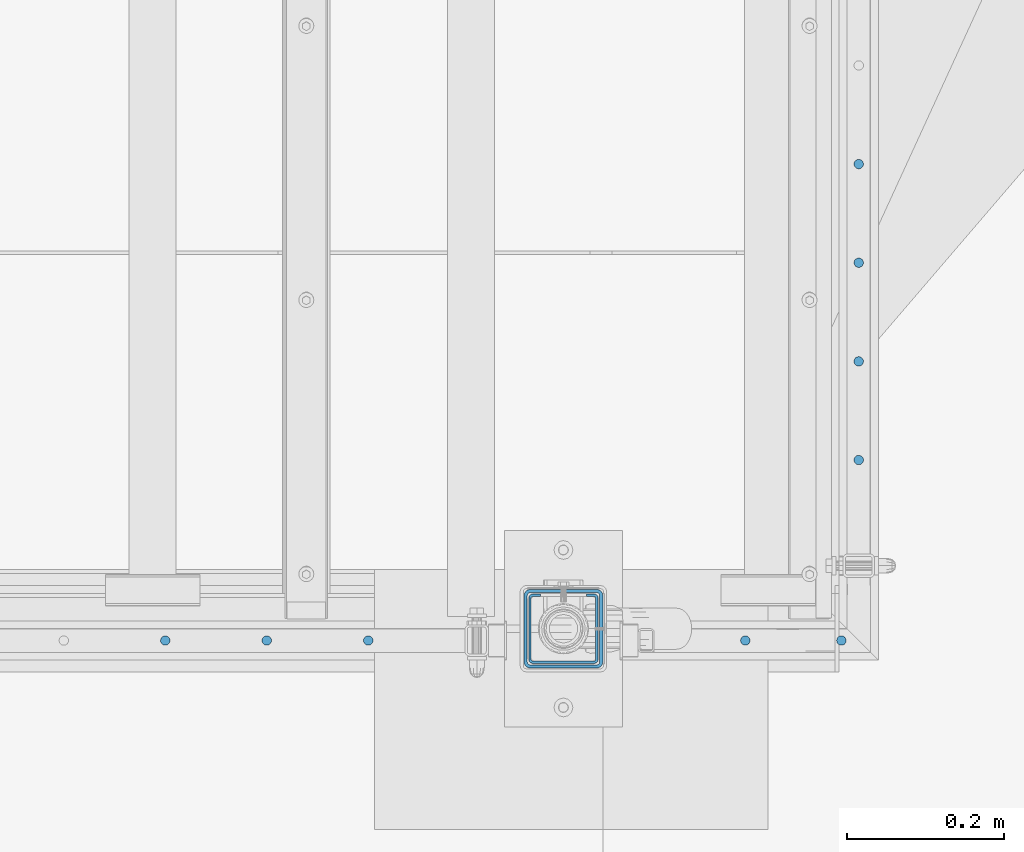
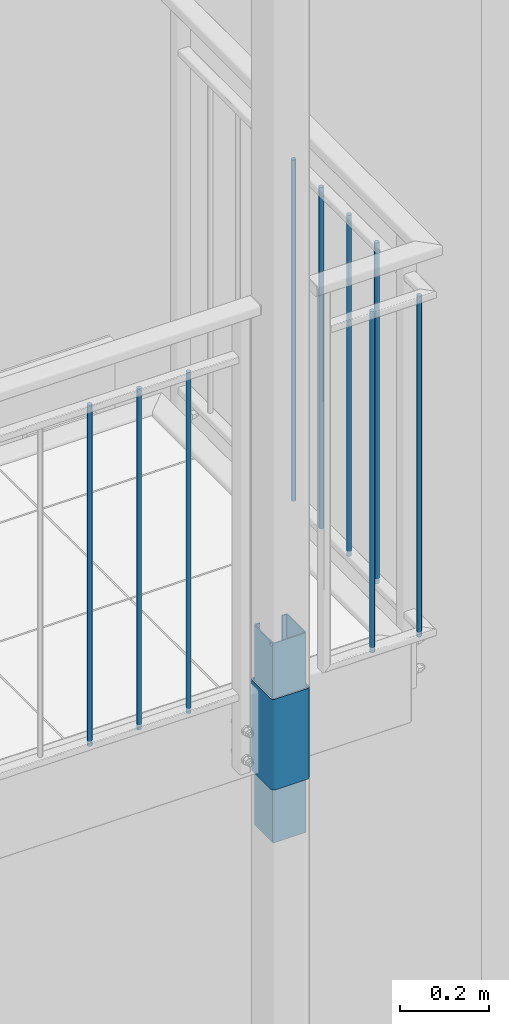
# One storey, part 30 of 162: 11 columns, 3 openings.
"""IFC2X3 building model written with IfcOpenShell, lengths in millimetres."""

from ifc_helpers import new_model, entity, si_unit, converted_unit, point, frame, frame_2d, origin, origin_with_axes, origin_2d, place, context, project, spatial, circle_curve, line_curve, trimmed, segment, composite_curve, hollow_rectangle, circle, outline, extrude, material, element, save


model = new_model("IFC2X3")

# Units and contexts
model_context = context("Model", 3, precision=1e-09, world=origin_with_axes())
ifc_project = project(units=[si_unit("LENGTHUNIT", "METRE", prefix="MILLI"), si_unit("AREAUNIT", "SQUARE_METRE"), si_unit("VOLUMEUNIT", "CUBIC_METRE"), converted_unit("PLANEANGLEUNIT", "DEGREE", entity("IfcPlaneAngleMeasure", 0.01745329), si_unit("PLANEANGLEUNIT", "RADIAN"), dimensions=[0, 0, 0, 0, 0, 0, 0])], contexts=[model_context])

# Site, building, storey
site_placement = place(None, origin_with_axes())
site = spatial("IfcSite", under=ifc_project, at=site_placement, Name="Hermannstra?e 1a, 60318 Frankfurt", CompositionType="ELEMENT")
building_placement = place(site_placement, origin_with_axes())
building = spatial("IfcBuilding", under=site, at=building_placement, Name="Struktur 1", CompositionType="ELEMENT")
storey_placement = place(building_placement, origin_with_axes())
storey = spatial("IfcBuildingStorey", under=building, at=storey_placement, Name="Default Storey", CompositionType="ELEMENT", Elevation=0.0)

# Columns
ifc_material = material(Name="S235JR")
for number, where, z_axis, x_axis in (
    (1, (5848.30936482, 2120.609373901, 15261.999), (0.0, 0.0, -1.0), (0.0, -1.0, 0.0)),
    (2, (5848.30936482, 1995.359373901, 15261.999), (0.0, 0.0, -1.0), (0.0, -1.0, 0.0)),
    (3, (5848.30936482, 1870.109373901, 15261.999), (0.0, 0.0, -1.0), (0.0, -1.0, 0.0)),
    (4, (5848.30936482, 1744.859373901, 15261.999), (0.0, 0.0, -1.0), (0.0, -1.0, 0.0)),
    (5, (4967.737936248, 1515.609373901, 15261.999), (0.0, 0.0, -1.0), (1.0, 0.0, 0.0)),
    (6, (5096.595079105, 1515.609373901, 15261.999), (0.0, 0.0, -1.0), (1.0, 0.0, 0.0)),
    (7, (5225.452221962, 1515.609373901, 15261.999), (0.0, 0.0, -1.0), (1.0, 0.0, 0.0)),
):
    element("IfcColumn", number, at=place(None, frame(where, z_axis=z_axis, x_axis=x_axis)), inside=storey, material=ifc_material, Name="-", ObjectType="-", context=model_context, shape_type="SweptSolid", body=[
        extrude(circle(Radius=6.0, at=origin_2d()), origin(), (0.0, 0.0, -1.0), 940.0),
    ])
for number, where, z_axis, x_axis in (
    (8, (5704.30936482, 1515.609373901, 15261.999), (0.0, 0.0, 1.0), (-1.0, 0.0, 0.0)),
    (9, (5826.30936482, 1515.609373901, 15261.999), (0.0, 0.0, 1.0), (-1.0, 0.0, 0.0)),
):
    element("IfcColumn", number, at=place(None, frame(where, z_axis=z_axis, x_axis=x_axis)), inside=storey, material=ifc_material, Name="-", ObjectType="-", context=model_context, shape_type="SweptSolid", body=[
        extrude(circle(Radius=6.0, at=origin_2d()), origin(), (0.0, 0.0, 1.0), 940.0),
    ])

# Column, opening
column_1_placement = place(None, frame((5473.30936482, 1530.609373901, 14996.999), z_axis=(0.0, 0.0, 1.0), x_axis=(0.0, -1.0, 0.0)))
column_1 = element("IfcColumn", 10, at=column_1_placement, inside=storey, material=ifc_material, Name="-", ObjectType="-", context=model_context, shape_type="SweptSolid", body=[
    extrude(hollow_rectangle(XDim=100.0, YDim=100.0, WallThickness=4.0, InnerFilletRadius=4.0, OuterFilletRadius=8.0, at=origin_2d()), origin(), (0.0, 0.0, 1.0), 250.0),
])
opening_1_placement = place(column_1_placement, frame((20.0, -26.002684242, 15.999), z_axis=(1.0, 0.0, 0.0), x_axis=(0.0, 0.707106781, -0.707106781)))
element("IfcOpeningElement", 11, at=opening_1_placement, cuts=column_1, ObjectType="Opening", context=model_context, shape_type="SweptSolid", body=[
    extrude(outline(composite_curve([segment(trimmed(circle_curve(frame_2d((4.242640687, 4.242640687), x_axis=(1.0, 0.0)), 6.0), [point((0.0, 0.0))], [point((8.485281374, 0.0))], True, "CARTESIAN"), True, "CONTINUOUS"), segment(trimmed(line_curve((8.485281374, 0.0), (0.707106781, 0.707106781), 40.002), [point((8.485281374, 0.0))], [point((36.770966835, 28.285685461))], True, "CARTESIAN"), True, "CONTINUOUS"), segment(trimmed(circle_curve(frame_2d((32.528326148, 32.528326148), x_axis=(1.0, 0.0)), 6.0), [point((36.770966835, 28.285685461))], [point((36.770966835, 36.770966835))], True, "CARTESIAN"), True, "CONTINUOUS"), segment(trimmed(line_curve((36.770966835, 36.770966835), (-0.707106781, 0.707106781), 38.002), [point((36.770966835, 36.770966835))], [point((9.899494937, 63.642438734))], True, "CARTESIAN"), True, "CONTINUOUS"), segment(trimmed(circle_curve(frame_2d((5.656854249, 59.399798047), x_axis=(1.0, 0.0)), 6.0), [point((9.899494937, 63.642438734))], [point((1.414213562, 63.642438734))], True, "CARTESIAN"), True, "CONTINUOUS"), segment(trimmed(line_curve((1.414213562, 63.642438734), (-0.707106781, -0.707106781), 40.002), [point((1.414213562, 63.642438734))], [point((-26.871471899, 35.356753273))], True, "CARTESIAN"), True, "CONTINUOUS"), segment(trimmed(circle_curve(frame_2d((-22.628831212, 31.114112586), x_axis=(1.0, 0.0)), 6.0), [point((-26.871471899, 35.356753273))], [point((-26.871471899, 26.871471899))], True, "CARTESIAN"), True, "CONTINUOUS"), segment(trimmed(line_curve((-26.871471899, 26.871471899), (0.707106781, -0.707106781), 38.002), [point((-26.871471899, 26.871471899))], [point((0.0, 0.0))], True, "CARTESIAN"), True, "CONTINUOUS")], self_intersect=False)), origin(), (0.0, 0.0, -1.0), 170.1),
])

# Column, openings
column_2_placement = place(None, frame((5473.30936482, 1530.609373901, 15396.999), z_axis=(0.0, 0.0, 1.0), x_axis=(0.0, 1.0, 0.0)))
column_2 = element("IfcColumn", 12, at=column_2_placement, inside=storey, material=ifc_material, Name="-", ObjectType="-", context=model_context, shape_type="SweptSolid", body=[
    extrude(outline(composite_curve([segment(trimmed(line_curve((44.0, 29.0), (0.0, 1.0), 10.0), [point((44.0, 29.0))], [point((44.0, 39.0))], True, "CARTESIAN"), True, "CONTINUOUS"), segment(trimmed(circle_curve(frame_2d((39.0, 39.0), x_axis=(1.0, 0.0)), 5.0), [point((44.0, 39.0))], [point((39.0, 44.0))], True, "CARTESIAN"), True, "CONTINUOUS"), segment(trimmed(line_curve((39.0, 44.0), (-1.0, 0.0), 78.0), [point((39.0, 44.0))], [point((-39.0, 44.0))], True, "CARTESIAN"), True, "CONTINUOUS"), segment(trimmed(circle_curve(frame_2d((-39.0, 39.0), x_axis=(1.0, 0.0)), 5.0), [point((-39.0, 44.0))], [point((-44.0, 39.0))], True, "CARTESIAN"), True, "CONTINUOUS"), segment(trimmed(line_curve((-44.0, 39.0), (0.0, -1.0), 78.0), [point((-44.0, 39.0))], [point((-44.0, -39.0))], True, "CARTESIAN"), True, "CONTINUOUS"), segment(trimmed(circle_curve(frame_2d((-39.0, -39.0), x_axis=(1.0, 0.0)), 5.0), [point((-44.0, -39.0))], [point((-39.0, -44.0))], True, "CARTESIAN"), True, "CONTINUOUS"), segment(trimmed(line_curve((-39.0, -44.0), (1.0, 0.0), 78.0), [point((-39.0, -44.0))], [point((39.0, -44.0))], True, "CARTESIAN"), True, "CONTINUOUS"), segment(trimmed(circle_curve(frame_2d((39.0, -39.0), x_axis=(1.0, 0.0)), 5.0), [point((39.0, -44.0))], [point((44.0, -39.0))], True, "CARTESIAN"), True, "CONTINUOUS"), segment(trimmed(line_curve((44.0, -39.0), (0.0, 1.0), 10.0), [point((44.0, -39.0))], [point((44.0, -29.0))], True, "CARTESIAN"), True, "CONTINUOUS"), segment(trimmed(line_curve((44.0, -29.0), (-1.0, 0.0), 3.0), [point((44.0, -29.0))], [point((41.0, -29.0))], True, "CARTESIAN"), True, "CONTINUOUS"), segment(trimmed(line_curve((41.0, -29.0), (0.0, -1.0), 10.0), [point((41.0, -29.0))], [point((41.0, -39.0))], True, "CARTESIAN"), True, "CONTINUOUS"), segment(trimmed(circle_curve(frame_2d((39.0, -39.0), x_axis=(-1.0, 0.0)), 2.0), [point((41.0, -39.0))], [point((39.0, -41.0))], False, "CARTESIAN"), True, "CONTINUOUS"), segment(trimmed(line_curve((39.0, -41.0), (-1.0, 0.0), 78.0), [point((39.0, -41.0))], [point((-39.0, -41.0))], True, "CARTESIAN"), True, "CONTINUOUS"), segment(trimmed(circle_curve(frame_2d((-39.0, -39.0), x_axis=(-1.0, 0.0)), 2.0), [point((-39.0, -41.0))], [point((-41.0, -39.0))], False, "CARTESIAN"), True, "CONTINUOUS"), segment(trimmed(line_curve((-41.0, -39.0), (0.0, 1.0), 78.0), [point((-41.0, -39.0))], [point((-41.0, 39.0))], True, "CARTESIAN"), True, "CONTINUOUS"), segment(trimmed(circle_curve(frame_2d((-39.0, 39.0), x_axis=(-1.0, 0.0)), 2.0), [point((-41.0, 39.0))], [point((-39.0, 41.0))], False, "CARTESIAN"), True, "CONTINUOUS"), segment(trimmed(line_curve((-39.0, 41.0), (1.0, 0.0), 78.0), [point((-39.0, 41.0))], [point((39.0, 41.0))], True, "CARTESIAN"), True, "CONTINUOUS"), segment(trimmed(circle_curve(frame_2d((39.0, 39.0), x_axis=(-1.0, 0.0)), 2.0), [point((39.0, 41.0))], [point((41.0, 39.0))], False, "CARTESIAN"), True, "CONTINUOUS"), segment(trimmed(line_curve((41.0, 39.0), (0.0, -1.0), 10.0), [point((41.0, 39.0))], [point((41.0, 29.0))], True, "CARTESIAN"), True, "CONTINUOUS"), segment(trimmed(line_curve((41.0, 29.0), (1.0, 0.0), 3.0), [point((41.0, 29.0))], [point((44.0, 29.0))], True, "CARTESIAN"), True, "CONTINUOUS")], self_intersect=False)), origin(), (0.0, 0.0, -1.0), 550.0),
])
opening_2_placement = place(column_2_placement, frame((-38.001, 40.5, -9.0), z_axis=(0.0, -1.0, 0.0), x_axis=(1.0, 0.0, 0.0)))
element("IfcOpeningElement", 13, at=opening_2_placement, cuts=column_2, ObjectType="Opening", context=model_context, shape_type="SweptSolid", body=[
    extrude(circle(Radius=5.001, at=frame_2d((5.001, 0.0), x_axis=(1.0, 0.0))), origin(), (0.0, 0.0, -1.0), 4.0),
])
opening_3_placement = place(column_2_placement, frame((0.0, -40.5, -160.0), z_axis=(0.0, -1.0, 0.0), x_axis=(1.0, 0.0, 0.0)))
element("IfcOpeningElement", 14, at=opening_3_placement, cuts=column_2, ObjectType="Opening", context=model_context, shape_type="SweptSolid", body=[
    extrude(circle(Radius=5.001, at=frame_2d((-33.0, 151.0), x_axis=(1.0, 0.0))), origin(), (0.0, 0.0, 1.0), 4.0),
])

save(model, "model.ifc")
